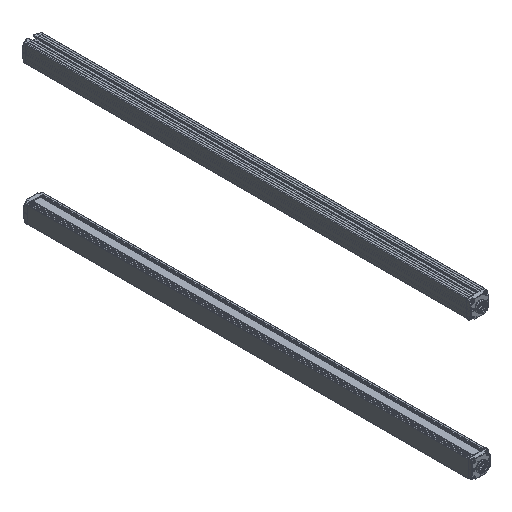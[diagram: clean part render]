
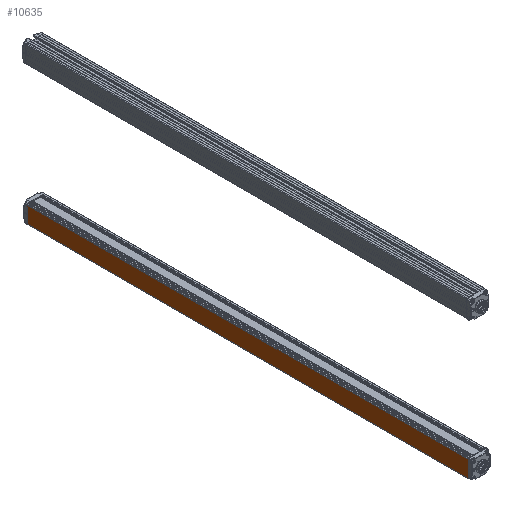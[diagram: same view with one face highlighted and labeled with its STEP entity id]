
A CAD part, isometric view. The second image highlights one B-rep face of the part: STEP entity #10635.
In plain terms, the highlighted planar face has unit normal (-1, 0, -0.009) as drawn and (1, 0, 0) by its records, which use the part's own axes.
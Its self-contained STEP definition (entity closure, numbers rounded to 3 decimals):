
#502 = ORIENTED_EDGE ( 'NONE', *, *, #1822, .T. ) ;
#644 = DIRECTION ( 'NONE',  ( 0., 1., 0. ) ) ;
#986 = DIRECTION ( 'NONE',  ( -1., 0., 0. ) ) ;
#1822 = EDGE_CURVE ( 'NONE', #14219, #9718, #4909, .T. ) ;
#2267 = EDGE_CURVE ( 'NONE', #13159, #9718, #12890, .T. ) ;
#3217 = VECTOR ( 'NONE', #3809, 1000. ) ;
#3662 = CARTESIAN_POINT ( 'NONE',  ( 15., 730., -16.693 ) ) ;
#3798 = DIRECTION ( 'NONE',  ( 0., 0., 1. ) ) ;
#3809 = DIRECTION ( 'NONE',  ( 0., 0., -1. ) ) ;
#4253 = CARTESIAN_POINT ( 'NONE',  ( 15., 730., 10.9 ) ) ;
#4550 = CARTESIAN_POINT ( 'NONE',  ( 15., 0., 10.9 ) ) ;
#4909 = LINE ( 'NONE', #6098, #7112 ) ;
#6098 = CARTESIAN_POINT ( 'NONE',  ( 15., 730., -16.693 ) ) ;
#6287 = EDGE_CURVE ( 'NONE', #13159, #9176, #17688, .T. ) ;
#7112 = VECTOR ( 'NONE', #644, 1000. ) ;
#7395 = EDGE_LOOP ( 'NONE', ( #14187, #502, #8324, #17165 ) ) ;
#7486 = DIRECTION ( 'NONE',  ( 0., 0., -1. ) ) ;
#7677 = DIRECTION ( 'NONE',  ( 0., -1., 0. ) ) ;
#7897 = CARTESIAN_POINT ( 'NONE',  ( 15., 730., -16.9 ) ) ;
#8324 = ORIENTED_EDGE ( 'NONE', *, *, #2267, .F. ) ;
#9176 = VERTEX_POINT ( 'NONE', #4550 ) ;
#9718 = VERTEX_POINT ( 'NONE', #3662 ) ;
#9929 = AXIS2_PLACEMENT_3D ( 'NONE', #7897, #986, #3798 ) ;
#9935 = CARTESIAN_POINT ( 'NONE',  ( 15., 0., -16.693 ) ) ;
#10634 = PLANE ( 'NONE',  #9929 ) ;
#10635 = ADVANCED_FACE ( 'NONE', ( #10917 ), #10634, .F. ) ;
#10917 = FACE_OUTER_BOUND ( 'NONE', #7395, .T. ) ;
#12019 = LINE ( 'NONE', #16483, #3217 ) ;
#12890 = LINE ( 'NONE', #16892, #15558 ) ;
#13120 = VECTOR ( 'NONE', #7677, 1000. ) ;
#13159 = VERTEX_POINT ( 'NONE', #4253 ) ;
#14187 = ORIENTED_EDGE ( 'NONE', *, *, #17756, .T. ) ;
#14219 = VERTEX_POINT ( 'NONE', #9935 ) ;
#15558 = VECTOR ( 'NONE', #7486, 1000. ) ;
#15966 = CARTESIAN_POINT ( 'NONE',  ( 15., 730., 10.9 ) ) ;
#16483 = CARTESIAN_POINT ( 'NONE',  ( 15., 0., -16.9 ) ) ;
#16892 = CARTESIAN_POINT ( 'NONE',  ( 15., 730., -16.9 ) ) ;
#17165 = ORIENTED_EDGE ( 'NONE', *, *, #6287, .T. ) ;
#17688 = LINE ( 'NONE', #15966, #13120 ) ;
#17756 = EDGE_CURVE ( 'NONE', #9176, #14219, #12019, .T. ) ;
